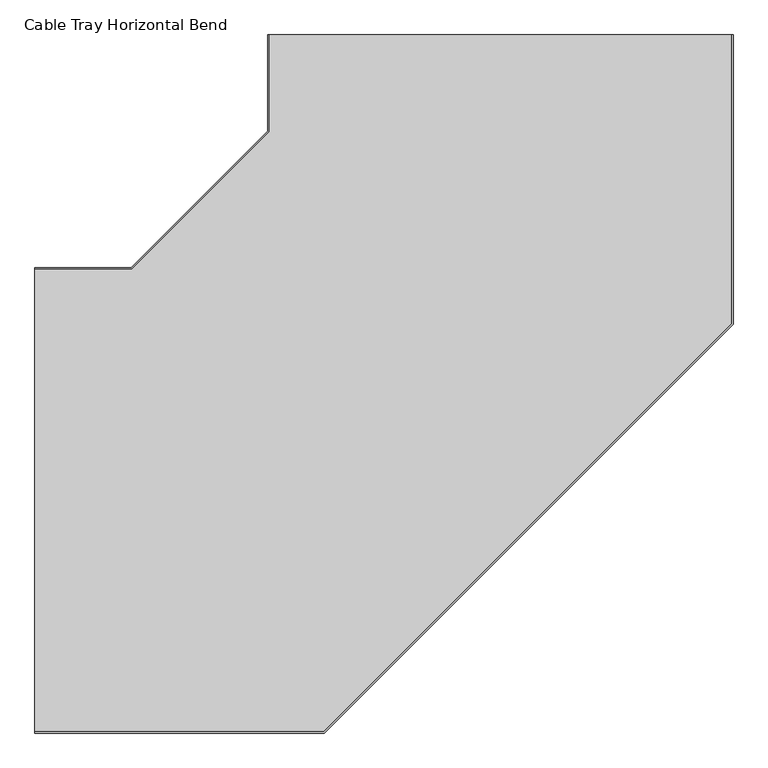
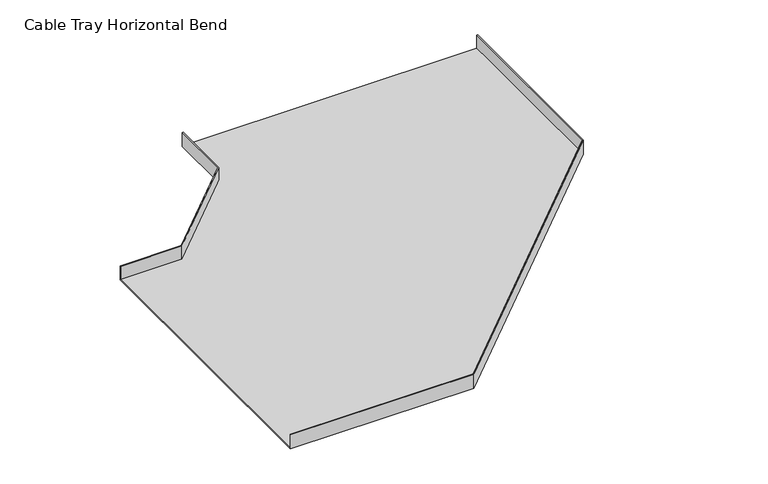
"""IFC4 building model written with IfcOpenShell, lengths in millimetres: cable carrier fitting geometry, Cable Tray Horizontal Bend : ELEC_MAIN_CT_N2402."""

from ifc_helpers import new_model, si_unit, origin, place, context, project, spatial, faceted_brep, source, transform, mapped, element, save


def cable_tray_horizontal_bend_b3b03265(model_context):
    return source(origin(), model_context, "Body", "Brep", [
        faceted_brep([(-1000.0, -500.0, -25.0), (-1000.0, -500.0, 25.0), (-1000.0, -497.46, 25.0), (-1000.0, -497.46, -22.46), (-1000.0, 497.46, -22.46), (-1000.0, 497.46, 25.0), (-1000.0, 500.0, 25.0), (-1000.0, 500.0, -25.0), (500.0, 1000.0, -25.0), (-500.0, 1000.0, -25.0), (-500.0, 1000.0, 25.0), (-497.46, 1000.0, 25.0), (-497.46, 1000.0, -22.46), (497.46, 1000.0, -22.46), (497.46, 1000.0, 25.0), (500.0, 1000.0, 25.0), (-378.6796564, -500.0, -25.0), (-378.6796564, -500.0, 25.0), (500.0, 378.6796564, 25.0), (497.46, 379.7317589, 25.0), (-379.7317589, -497.46, 25.0), (-379.7317589, -497.46, -22.46), (497.46, 379.7317589, -22.46), (-497.46, 791.8411164, -22.46), (-791.8411164, 497.46, -22.46), (-791.8411164, 497.46, 25.0), (-497.46, 791.8411164, 25.0), (-500.0, 792.8932188, 25.0), (-792.8932188, 500.0, 25.0), (-792.8932188, 500.0, -25.0), (-500.0, 792.8932188, -25.0), (500.0, 378.6796564, -25.0)], [[[0, 1, 2, 3, 4, 5, 6, 7]], [[8, 9, 10, 11, 12, 13, 14, 15]], [[1, 0, 16, 17]], [[2, 1, 17, 18, 15, 14, 19, 20]], [[3, 2, 20, 21]], [[4, 3, 21, 22, 13, 12, 23, 24]], [[5, 4, 24, 25]], [[6, 5, 25, 26, 11, 10, 27, 28]], [[7, 6, 28, 29]], [[0, 7, 29, 30, 9, 8, 31, 16]], [[17, 16, 31, 18]], [[21, 20, 19, 22]], [[25, 24, 23, 26]], [[29, 28, 27, 30]], [[18, 31, 8, 15]], [[22, 19, 14, 13]], [[26, 23, 12, 11]], [[30, 27, 10, 9]]]),
    ])


if __name__ == "__main__":
    model = new_model("IFC4")
    model_context = context("Model", 3, world=origin())
    ifc_project = project(units=[si_unit("LENGTHUNIT", "METRE", prefix="MILLI")], contexts=[model_context])
    site = spatial("IfcSite", under=ifc_project)
    building = spatial("IfcBuilding", under=site)
    placement = place(None, origin())
    cable_tray_horizontal_bend_shape = cable_tray_horizontal_bend_b3b03265(model_context)
    element("IfcCableCarrierFitting", 1, ObjectType="Cable Tray Horizontal Bend : ELEC_MAIN_CT_N2402", at=placement, inside=building, context=model_context, shape_type="MappedRepresentation", body=[
        mapped(cable_tray_horizontal_bend_shape, transform((0.0, 0.0, 0.0), x_axis=(1.0, 0.0, 0.0), y_axis=(0.0, 1.0, 0.0), z_axis=(0.0, 0.0, 1.0))),
    ])
    save(model, "model.ifc")
